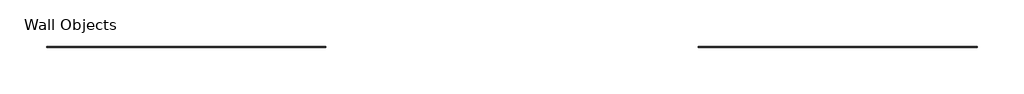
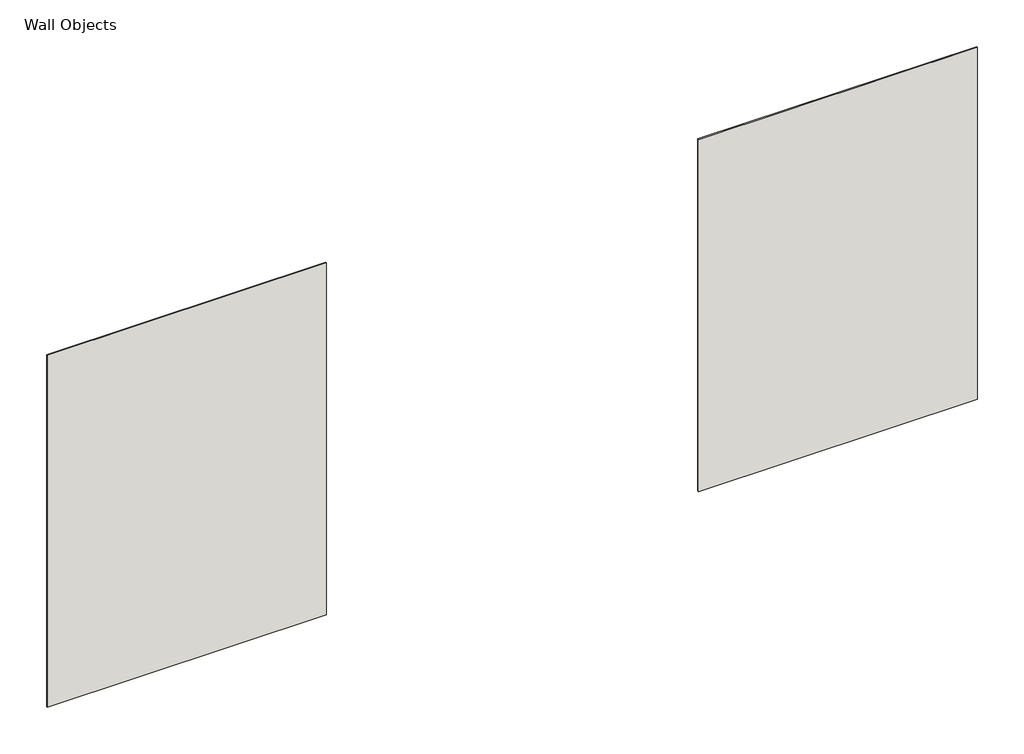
# One storey: 2 walls.
"""IFC4 building model written with IfcOpenShell, lengths in millimetres."""

from ifc_helpers import new_model, si_unit, frame, origin, place, context, project, spatial, polyline, outline, extrude, element, save

model = new_model("IFC4")

# Units and contexts
model_context = context("Model", 3, world=origin())
ifc_project = project(units=[si_unit("LENGTHUNIT", "METRE", prefix="MILLI")], contexts=[model_context])

# Site, building, storey
site = spatial("IfcSite", under=ifc_project)
building = spatial("IfcBuilding", under=site)
storey = spatial("IfcBuildingStorey", under=building, Name="Wall Objects", Elevation=4000.0)

# Walls
placement = place(None, origin())
element("IfcWall", 1, ObjectType="Knauf Danoline Stratopanel 1875x1200x12.5_Wall lining_FF", at=placement, inside=storey, context=model_context, shape_type="SweptSolid", body=[
    extrude(outline(polyline([(-4783.0103193, 6610.7781757), (-7783.0103193, 6610.7781757), (-7783.0103193, 6623.2781757), (-4783.0103193, 6623.2781757), (-4783.0103193, 6610.7781757)])), frame((0.0, 0.0, 4000.0), z_axis=(0.0, 0.0, 1.0), x_axis=(1.0, 0.0, 0.0)), (0.0, 0.0, 1.0), 4000.0),
])
element("IfcWall", 2, ObjectType="Knauf Danoline Stratopanel 2500x1200x12.5_Wall lining_FF", at=placement, inside=storey, context=model_context, shape_type="SweptSolid", body=[
    extrude(outline(polyline([(2216.9899047, 6610.7781757), (-783.0100953, 6610.7781757), (-783.0100953, 6623.2781757), (2216.9899047, 6623.2781757), (2216.9899047, 6610.7781757)])), frame((0.0, 0.0, 4000.0), z_axis=(0.0, 0.0, 1.0), x_axis=(1.0, 0.0, 0.0)), (0.0, 0.0, 1.0), 4000.0),
])

save(model, "model.ifc")
